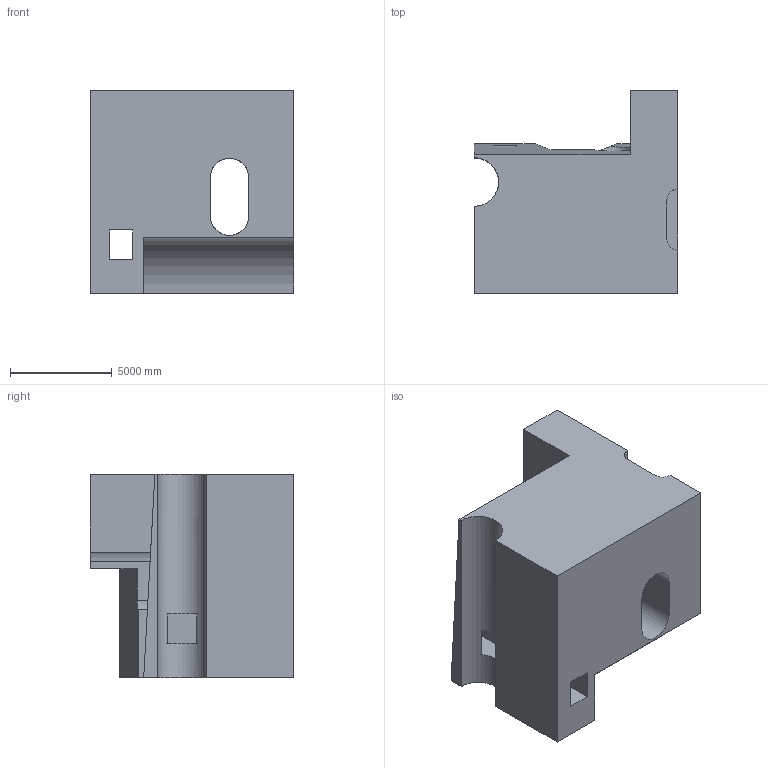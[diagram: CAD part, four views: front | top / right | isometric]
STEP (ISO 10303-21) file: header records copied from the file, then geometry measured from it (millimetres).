
FILE_DESCRIPTION (( 'STEP AP203' ), '1' );
FILE_NAME ('665.STEP', '2022-08-04T14:37:25', ( 'user' ), ( '' ), 'SwSTEP 2.0', 'SolidWorks 2021', '' );
FILE_SCHEMA (( 'CONFIG_CONTROL_DESIGN' ));
Length unit declared in the file: centimetre
Products named in the file (1): 665
Bounding box: 10000 x 10000 x 10000 mm (x, y, z)
Volume: 618200340962.6 mm3; surface area: 624787483.6 mm2
Topology: 1 solids, 1 shells, 33 faces, 99 edges, 66 vertices
Faces by surface type: plane 26, cylinder 7
Entity records: 1196 total; most frequent: CARTESIAN_POINT 214, ORIENTED_EDGE 198, DIRECTION 176, EDGE_CURVE 99, LINE 80, VECTOR 80, VERTEX_POINT 66, AXIS2_PLACEMENT_3D 48
